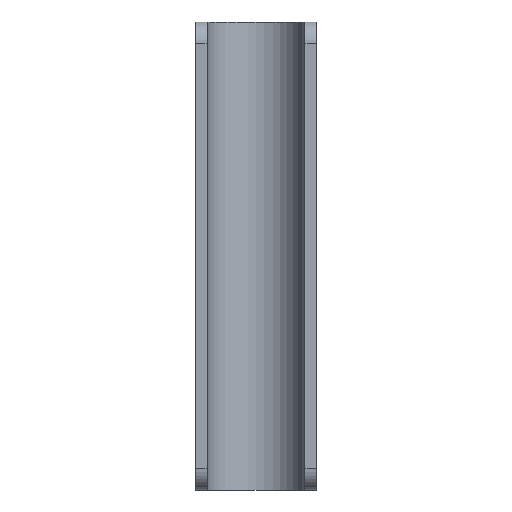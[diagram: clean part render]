
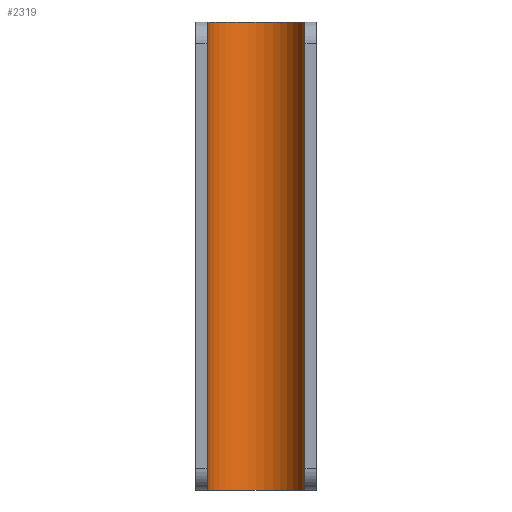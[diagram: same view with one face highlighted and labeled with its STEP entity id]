
A CAD part, left-side view. The second image highlights one B-rep face of the part: STEP entity #2319.
In plain terms, the highlighted cylindrical face has radius 11.5 mm (diameter 23 mm), a partial arc.
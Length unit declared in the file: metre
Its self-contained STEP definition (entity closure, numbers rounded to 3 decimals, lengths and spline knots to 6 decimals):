
#20=CIRCLE('',#2448,0.0115);
#22=CIRCLE('',#2451,0.0115);
#29=CYLINDRICAL_SURFACE('',#2454,0.0115);
#658=ORIENTED_EDGE('',*,*,#976,.F.);
#659=ORIENTED_EDGE('',*,*,#931,.T.);
#660=ORIENTED_EDGE('',*,*,#974,.T.);
#661=ORIENTED_EDGE('',*,*,#973,.F.);
#931=EDGE_CURVE('',#1156,#1146,#1451,.T.);
#973=EDGE_CURVE('',#1184,#1166,#1489,.T.);
#974=EDGE_CURVE('',#1146,#1166,#20,.T.);
#976=EDGE_CURVE('',#1156,#1184,#22,.T.);
#1146=VERTEX_POINT('',#3449);
#1156=VERTEX_POINT('',#3476);
#1166=VERTEX_POINT('',#3570);
#1184=VERTEX_POINT('',#3624);
#1451=LINE('',#3546,#1755);
#1489=LINE('',#3631,#1793);
#1755=VECTOR('',#2912,1.);
#1793=VECTOR('',#2988,1.);
#1949=EDGE_LOOP('',(#658,#659,#660,#661));
#2105=FACE_BOUND('',#1949,.T.);
#2319=ADVANCED_FACE('',(#2105),#29,.F.);
#2448=AXIS2_PLACEMENT_3D('',#3633,#2991,#2992);
#2451=AXIS2_PLACEMENT_3D('',#3636,#2997,#2998);
#2454=AXIS2_PLACEMENT_3D('',#3639,#3003,#3004);
#2912=DIRECTION('',(0.,0.,1.));
#2988=DIRECTION('',(0.,0.,1.));
#2991=DIRECTION('',(0.,0.,1.));
#2992=DIRECTION('',(0.,-1.,0.));
#2997=DIRECTION('',(0.,0.,1.));
#2998=DIRECTION('',(0.,-1.,0.));
#3003=DIRECTION('',(0.,0.,1.));
#3004=DIRECTION('',(0.,-1.,0.));
#3449=CARTESIAN_POINT('',(0.070027,0.0027,0.));
#3476=CARTESIAN_POINT('',(0.070027,0.0027,-0.11));
#3546=CARTESIAN_POINT('',(0.070027,0.0027,-0.055));
#3570=CARTESIAN_POINT('',(0.070027,0.0257,0.));
#3624=CARTESIAN_POINT('',(0.070027,0.0257,-0.11));
#3631=CARTESIAN_POINT('',(0.070027,0.0257,-0.055));
#3633=CARTESIAN_POINT('',(0.070027,0.0142,0.));
#3636=CARTESIAN_POINT('',(0.070027,0.0142,-0.11));
#3639=CARTESIAN_POINT('',(0.070027,0.0142,-0.11));
